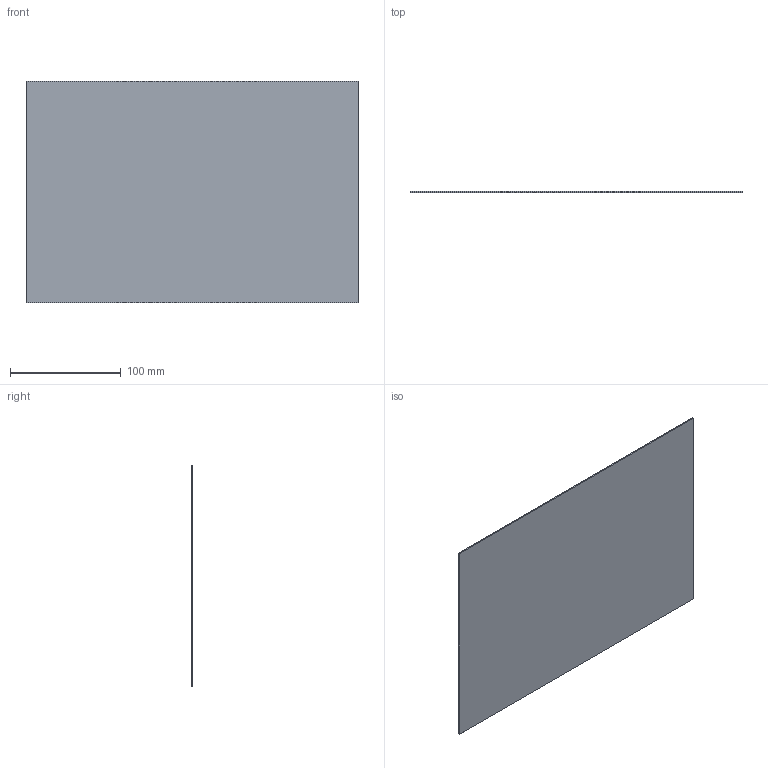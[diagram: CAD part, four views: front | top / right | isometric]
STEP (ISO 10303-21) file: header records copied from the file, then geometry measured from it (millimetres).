
FILE_DESCRIPTION (( 'STEP AP203' ), '1' );
FILE_NAME ('VT00281.STEP', '2016-10-24T12:42:51', ( '' ), ( '' ), 'SwSTEP 2.0', 'SolidWorks 2016', '' );
FILE_SCHEMA (( 'CONFIG_CONTROL_DESIGN' ));
Length unit declared in the file: millimetre
Products named in the file (1): VT00281
Bounding box: 300 x 1 x 200 mm (x, y, z)
Volume: 60000 mm3; surface area: 121000 mm2
Topology: 1 solids, 1 shells, 6 faces, 12 edges, 8 vertices
Faces by surface type: plane 6
Entity records: 233 total; most frequent: CARTESIAN_POINT 27, DIRECTION 26, ORIENTED_EDGE 24, LINE 12, VECTOR 12, EDGE_CURVE 12, VERTEX_POINT 8, PERSON_AND_ORGANIZATION 8
